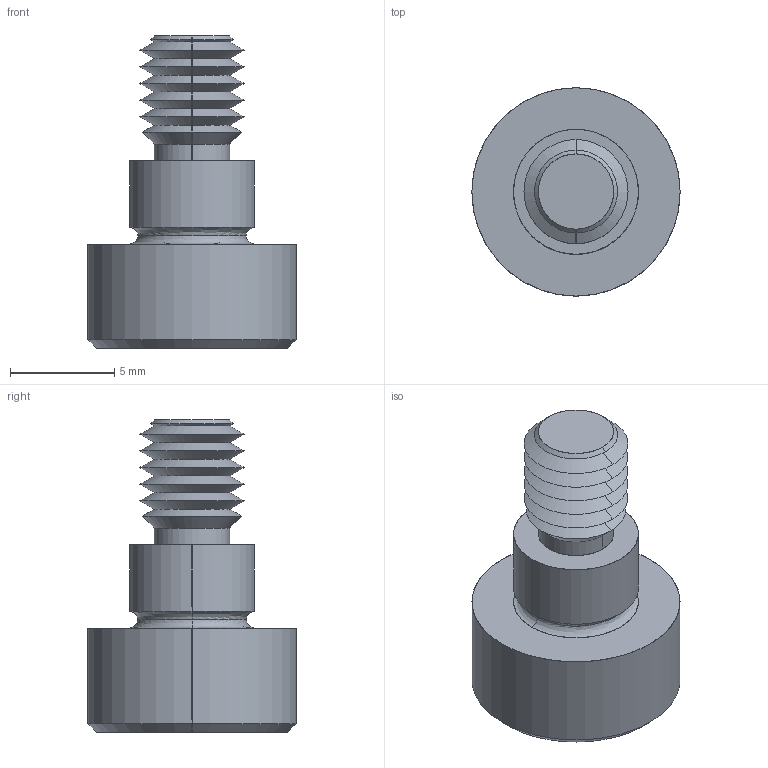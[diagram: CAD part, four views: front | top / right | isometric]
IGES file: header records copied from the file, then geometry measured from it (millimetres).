
Start section: SolidWorks IGES file using analytic representation for surfaces
Global section: file name: C:\Users\IanO\Documents\Temp Folder\GENERAL\SCREW REVISION\P0130_v2\P0130.T5_v2_20220106_IGES\P0130.060-004-T5.igs; native system: SolidWorks 2019; preprocessor: SolidWorks 2019; author: IanO; date: 220106.222029; units: millimetre
Bounding box: 10 x 10 x 15 mm (x, y, z)
Surface area: 563 mm2 (no closed solid volume)
Topology: 0 solids, 0 shells, 64 faces, 504 edges, 502 vertices
Faces by surface type: revolution 44, bspline 20
